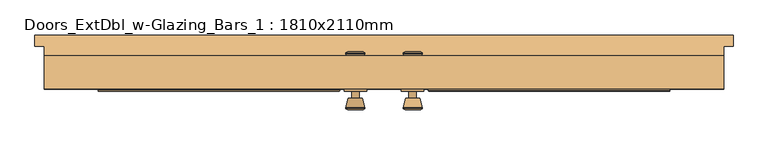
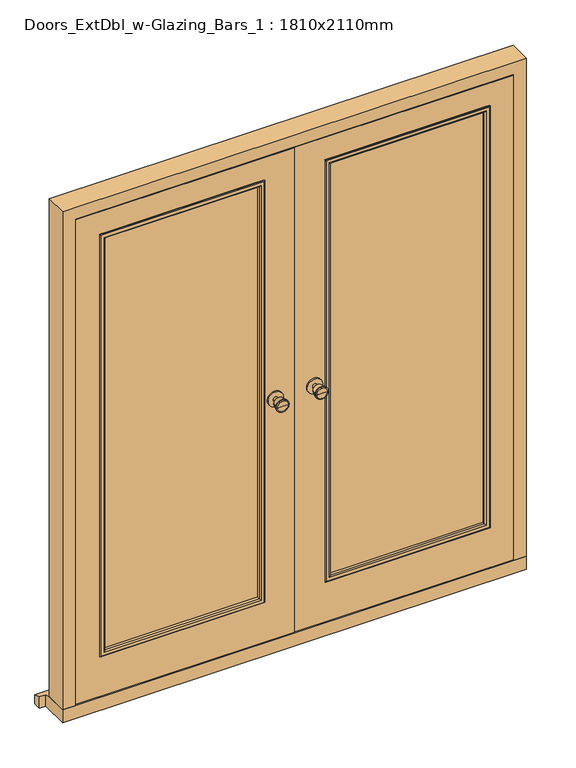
"""IFC4 building model written with IfcOpenShell, lengths in millimetres: door geometry, Doors_ExtDbl_w-Glazing_Bars_1 : 1810x2110mm."""

from ifc_helpers import new_model, si_unit, point, frame, frame_2d, origin, place, context, project, spatial, polyline, circle_curve, ellipse_curve, trimmed, segment, composite_curve, outline, extrude, faceted_brep, source, transform, mapped, element, save
from ifc_brep_helpers import plane_surface, cylinder_surface, revolved_surface, advanced_brep


def doors_extdbl_w_glazing_bars_1_1810x2110mm_a288015c(model_context):
    return source(origin(), model_context, "Body", "SolidModel", [
        advanced_brep(
        [(-76.5, 10.0, 1050.0), (-66.5, 10.0, 1050.0), (-86.5, 10.0, 1050.0), (-96.9758676, -39.0, 1050.0), (-56.0241324, -39.0, 1050.0), (-76.5, -39.0, 1050.0), (-101.5, -37.1721319, 1050.0), (-51.5, -37.1721319, 1050.0), (-101.5, -33.7084537, 1050.0), (-51.5, -33.7084537, 1050.0), (-95.136236, -9.0, 1050.0), (-57.863764, -9.0, 1050.0), (-86.5, -9.0, 1050.0), (-66.5, -9.0, 1050.0)],
        [
            (0, 1),
            (1, 2, circle_curve(frame((-76.5, 10.0, 1050.0), z_axis=(0.0, 1.0, 0.0), x_axis=(1.0, 0.0, 0.0)), 10.0)),
            (2, 0),
            (2, 1, circle_curve(frame((-76.5, 10.0, 1050.0), z_axis=(0.0, 1.0, 0.0), x_axis=(1.0, 0.0, 0.0)), 10.0)),
            (3, 4, circle_curve(frame((-76.5, -39.0, 1050.0), z_axis=(0.0, -1.0, 0.0), x_axis=(1.0, 0.0, 0.0)), 20.4758676)),
            (4, 5),
            (5, 3),
            (4, 3, circle_curve(frame((-76.5, -39.0, 1050.0), z_axis=(0.0, -1.0, 0.0), x_axis=(1.0, 0.0, 0.0)), 20.4758676)),
            (6, 7, circle_curve(frame((-76.5, -37.1721319, 1050.0), z_axis=(0.0, -1.0, 0.0), x_axis=(1.0, 0.0, 0.0)), 25.0)),
            (7, 4),
            (3, 6),
            (7, 6, circle_curve(frame((-76.5, -37.1721319, 1050.0), z_axis=(0.0, -1.0, 0.0), x_axis=(1.0, 0.0, 0.0)), 25.0)),
            (8, 9, circle_curve(frame((-76.5, -33.7084537, 1050.0), z_axis=(0.0, -1.0, 0.0), x_axis=(1.0, 0.0, 0.0)), 25.0)),
            (9, 7),
            (6, 8),
            (9, 8, circle_curve(frame((-76.5, -33.7084537, 1050.0), z_axis=(0.0, -1.0, 0.0), x_axis=(1.0, 0.0, 0.0)), 25.0)),
            (10, 11, circle_curve(frame((-76.5, -9.0, 1050.0), z_axis=(0.0, -1.0, 0.0), x_axis=(1.0, 0.0, 0.0)), 18.636236)),
            (11, 9),
            (8, 10),
            (11, 10, circle_curve(frame((-76.5, -9.0, 1050.0), z_axis=(0.0, -1.0, 0.0), x_axis=(1.0, 0.0, 0.0)), 18.636236)),
            (12, 13, circle_curve(frame((-76.5, -9.0, 1050.0), z_axis=(0.0, -1.0, 0.0), x_axis=(1.0, 0.0, 0.0)), 10.0)),
            (13, 11),
            (10, 12),
            (13, 12, circle_curve(frame((-76.5, -9.0, 1050.0), z_axis=(0.0, -1.0, 0.0), x_axis=(1.0, 0.0, 0.0)), 10.0)),
            (1, 13),
            (12, 2),
        ],
        [
            plane_surface(frame((-76.5, 10.0, 1050.0), z_axis=(0.0, 1.0, 0.0), x_axis=(1.0, 0.0, 0.0))),
            plane_surface(frame((-76.5, -39.0, 1050.0), z_axis=(0.0, -1.0, 0.0), x_axis=(1.0, 0.0, 0.0))),
            revolved_surface(polyline([(-56.0241324, -39.0, 1050.0), (-51.5, -37.1721319, 1050.0)]), (-76.5, 10.0, 1050.0), (0.0, 1.0, 0.0)),
            cylinder_surface(frame((-76.5, 10.0, 1050.0), z_axis=(0.0, 1.0, 0.0), x_axis=(1.0, 0.0, 0.0)), 25.0),
            revolved_surface(polyline([(-51.5, -33.7084537, 1050.0), (-57.863764, -9.0, 1050.0)]), (-76.5, 10.0, 1050.0), (0.0, 1.0, 0.0)),
            plane_surface(frame((-76.5, -9.0, 1050.0), z_axis=(0.0, 1.0, 0.0), x_axis=(1.0, 0.0, 0.0))),
            cylinder_surface(frame((-76.5, 10.0, 1050.0), z_axis=(0.0, 1.0, 0.0), x_axis=(1.0, 0.0, 0.0)), 10.0),
        ],
        [
            (0, [[1, 2, 3]]),
            (0, [[-3, 4, -1]]),
            (1, [[5, 6, 7]]),
            (1, [[8, -7, -6]]),
            (2, [[9, 10, -5, 11]]),
            (2, [[12, -11, -8, -10]]),
            (3, [[13, 14, -9, 15]]),
            (3, [[16, -15, -12, -14]]),
            (4, [[17, 18, -13, 19]]),
            (4, [[20, -19, -16, -18]]),
            (5, [[21, 22, -17, 23]]),
            (5, [[24, -23, -20, -22]]),
            (6, [[-2, 25, -21, 26]]),
            (6, [[-4, -26, -24, -25]]),
        ],
    ),
        extrude(outline(composite_curve([segment(trimmed(circle_curve(frame_2d((1050.0, -76.5)), 30.0), [point((1050.0, -46.5))], [point((1050.0, -106.5))], False, "CARTESIAN"), True, "CONTINUOUS"), segment(trimmed(circle_curve(frame_2d((1050.0, -76.5)), 30.0), [point((1050.0, -106.5))], [point((1050.0, -46.5))], False, "CARTESIAN"), True, "CONTINUOUS")], self_intersect=False)), frame((0.0, 10.0, 0.0), z_axis=(0.0, 1.0, 0.0), x_axis=(0.0, 0.0, 1.0)), (0.0, 0.0, 1.0), 6.0),
        advanced_brep(
        [(-76.5, 66.0, 1050.0), (-86.5, 66.0, 1050.0), (-66.5, 66.0, 1050.0), (-96.9758676, 115.0, 1050.0), (-76.5, 115.0, 1050.0), (-56.0241324, 115.0, 1050.0), (-101.5, 113.1721319, 1050.0), (-51.5, 113.1721319, 1050.0), (-101.5, 109.7084537, 1050.0), (-51.5, 109.7084537, 1050.0), (-95.136236, 85.0, 1050.0), (-57.863764, 85.0, 1050.0), (-86.5, 85.0, 1050.0), (-66.5, 85.0, 1050.0)],
        [
            (0, 1),
            (1, 2, circle_curve(frame((-76.5, 66.0, 1050.0), z_axis=(0.0, -1.0, 0.0), x_axis=(1.0, 0.0, 0.0)), 10.0)),
            (2, 0),
            (2, 1, circle_curve(frame((-76.5, 66.0, 1050.0), z_axis=(0.0, -1.0, 0.0), x_axis=(1.0, 0.0, 0.0)), 10.0)),
            (3, 4),
            (4, 5),
            (5, 3, circle_curve(frame((-76.5, 115.0, 1050.0), z_axis=(0.0, 1.0, 0.0), x_axis=(1.0, 0.0, 0.0)), 20.4758676)),
            (3, 5, circle_curve(frame((-76.5, 115.0, 1050.0), z_axis=(0.0, 1.0, 0.0), x_axis=(1.0, 0.0, 0.0)), 20.4758676)),
            (6, 3),
            (5, 7),
            (7, 6, circle_curve(frame((-76.5, 113.1721319, 1050.0), z_axis=(0.0, 1.0, 0.0), x_axis=(1.0, 0.0, 0.0)), 25.0)),
            (6, 7, circle_curve(frame((-76.5, 113.1721319, 1050.0), z_axis=(0.0, 1.0, 0.0), x_axis=(1.0, 0.0, 0.0)), 25.0)),
            (8, 6),
            (7, 9),
            (9, 8, circle_curve(frame((-76.5, 109.7084537, 1050.0), z_axis=(0.0, 1.0, 0.0), x_axis=(1.0, 0.0, 0.0)), 25.0)),
            (8, 9, circle_curve(frame((-76.5, 109.7084537, 1050.0), z_axis=(0.0, 1.0, 0.0), x_axis=(1.0, 0.0, 0.0)), 25.0)),
            (10, 8),
            (9, 11),
            (11, 10, circle_curve(frame((-76.5, 85.0, 1050.0), z_axis=(0.0, 1.0, 0.0), x_axis=(1.0, 0.0, 0.0)), 18.636236)),
            (10, 11, circle_curve(frame((-76.5, 85.0, 1050.0), z_axis=(0.0, 1.0, 0.0), x_axis=(1.0, 0.0, 0.0)), 18.636236)),
            (12, 10),
            (11, 13),
            (13, 12, circle_curve(frame((-76.5, 85.0, 1050.0), z_axis=(0.0, 1.0, 0.0), x_axis=(1.0, 0.0, 0.0)), 10.0)),
            (12, 13, circle_curve(frame((-76.5, 85.0, 1050.0), z_axis=(0.0, 1.0, 0.0), x_axis=(1.0, 0.0, 0.0)), 10.0)),
            (1, 12),
            (13, 2),
        ],
        [
            plane_surface(frame((-76.5, 66.0, 1050.0), z_axis=(0.0, -1.0, 0.0), x_axis=(1.0, 0.0, 0.0))),
            plane_surface(frame((-76.5, 115.0, 1050.0), z_axis=(0.0, 1.0, 0.0), x_axis=(1.0, 0.0, 0.0))),
            revolved_surface(polyline([(-56.0241324, 115.0, 1050.0), (-51.5, 113.1721319, 1050.0)]), (-76.5, 66.0, 1050.0), (0.0, -1.0, 0.0)),
            cylinder_surface(frame((-76.5, 66.0, 1050.0), z_axis=(0.0, -1.0, 0.0), x_axis=(1.0, 0.0, 0.0)), 25.0),
            revolved_surface(polyline([(-51.5, 109.7084537, 1050.0), (-57.863764, 85.0, 1050.0)]), (-76.5, 66.0, 1050.0), (0.0, -1.0, 0.0)),
            plane_surface(frame((-76.5, 85.0, 1050.0), z_axis=(0.0, -1.0, 0.0), x_axis=(1.0, 0.0, 0.0))),
            cylinder_surface(frame((-76.5, 66.0, 1050.0), z_axis=(0.0, -1.0, 0.0), x_axis=(1.0, 0.0, 0.0)), 10.0),
        ],
        [
            (0, [[1, 2, 3]]),
            (0, [[-3, 4, -1]]),
            (1, [[5, 6, 7]]),
            (1, [[-6, -5, 8]]),
            (2, [[9, -7, 10, 11]]),
            (2, [[-10, -8, -9, 12]]),
            (3, [[13, -11, 14, 15]]),
            (3, [[-14, -12, -13, 16]]),
            (4, [[17, -15, 18, 19]]),
            (4, [[-18, -16, -17, 20]]),
            (5, [[21, -19, 22, 23]]),
            (5, [[-22, -20, -21, 24]]),
            (6, [[25, -23, 26, -2]]),
            (6, [[-26, -24, -25, -4]]),
        ],
    ),
        extrude(outline(composite_curve([segment(trimmed(circle_curve(frame_2d((1050.0, -76.5)), 30.0), [point((1050.0, -46.5))], [point((1050.0, -106.5))], False, "CARTESIAN"), True, "CONTINUOUS"), segment(trimmed(circle_curve(frame_2d((1050.0, -76.5)), 30.0), [point((1050.0, -106.5))], [point((1050.0, -46.5))], False, "CARTESIAN"), True, "CONTINUOUS")], self_intersect=False)), frame((0.0, 60.0, 0.0), z_axis=(0.0, 1.0, 0.0), x_axis=(0.0, 0.0, 1.0)), (0.0, 0.0, 1.0), 6.0),
        advanced_brep(
        [(76.5, 10.0, 1050.0), (86.5, 10.0, 1050.0), (66.5, 10.0, 1050.0), (96.9758676, -39.0, 1050.0), (76.5, -39.0, 1050.0), (56.0241324, -39.0, 1050.0), (101.5, -37.1721319, 1050.0), (51.5, -37.1721319, 1050.0), (101.5, -33.7084537, 1050.0), (51.5, -33.7084537, 1050.0), (95.136236, -9.0, 1050.0), (57.863764, -9.0, 1050.0), (86.5, -9.0, 1050.0), (66.5, -9.0, 1050.0)],
        [
            (0, 1),
            (1, 2, circle_curve(frame((76.5, 10.0, 1050.0), z_axis=(0.0, 1.0, 0.0), x_axis=(-1.0, 0.0, 0.0)), 10.0)),
            (2, 0),
            (2, 1, circle_curve(frame((76.5, 10.0, 1050.0), z_axis=(0.0, 1.0, 0.0), x_axis=(-1.0, 0.0, 0.0)), 10.0)),
            (3, 4),
            (4, 5),
            (5, 3, circle_curve(frame((76.5, -39.0, 1050.0), z_axis=(0.0, -1.0, 0.0), x_axis=(-1.0, 0.0, 0.0)), 20.4758676)),
            (3, 5, circle_curve(frame((76.5, -39.0, 1050.0), z_axis=(0.0, -1.0, 0.0), x_axis=(-1.0, 0.0, 0.0)), 20.4758676)),
            (6, 3),
            (5, 7),
            (7, 6, circle_curve(frame((76.5, -37.1721319, 1050.0), z_axis=(0.0, -1.0, 0.0), x_axis=(-1.0, 0.0, 0.0)), 25.0)),
            (6, 7, circle_curve(frame((76.5, -37.1721319, 1050.0), z_axis=(0.0, -1.0, 0.0), x_axis=(-1.0, 0.0, 0.0)), 25.0)),
            (8, 6),
            (7, 9),
            (9, 8, circle_curve(frame((76.5, -33.7084537, 1050.0), z_axis=(0.0, -1.0, 0.0), x_axis=(-1.0, 0.0, 0.0)), 25.0)),
            (8, 9, circle_curve(frame((76.5, -33.7084537, 1050.0), z_axis=(0.0, -1.0, 0.0), x_axis=(-1.0, 0.0, 0.0)), 25.0)),
            (10, 8),
            (9, 11),
            (11, 10, circle_curve(frame((76.5, -9.0, 1050.0), z_axis=(0.0, -1.0, 0.0), x_axis=(-1.0, 0.0, 0.0)), 18.636236)),
            (10, 11, circle_curve(frame((76.5, -9.0, 1050.0), z_axis=(0.0, -1.0, 0.0), x_axis=(-1.0, 0.0, 0.0)), 18.636236)),
            (12, 10),
            (11, 13),
            (13, 12, circle_curve(frame((76.5, -9.0, 1050.0), z_axis=(0.0, -1.0, 0.0), x_axis=(-1.0, 0.0, 0.0)), 10.0)),
            (12, 13, circle_curve(frame((76.5, -9.0, 1050.0), z_axis=(0.0, -1.0, 0.0), x_axis=(-1.0, 0.0, 0.0)), 10.0)),
            (1, 12),
            (13, 2),
        ],
        [
            plane_surface(frame((76.5, 10.0, 1050.0), z_axis=(0.0, 1.0, 0.0), x_axis=(-1.0, 0.0, 0.0))),
            plane_surface(frame((76.5, -39.0, 1050.0), z_axis=(0.0, -1.0, 0.0), x_axis=(-1.0, 0.0, 0.0))),
            revolved_surface(polyline([(56.0241324, -39.0, 1050.0), (51.5, -37.1721319, 1050.0)]), (76.5, 10.0, 1050.0), (0.0, 1.0, 0.0)),
            cylinder_surface(frame((76.5, 10.0, 1050.0), z_axis=(0.0, 1.0, 0.0), x_axis=(-1.0, 0.0, 0.0)), 25.0),
            revolved_surface(polyline([(51.5, -33.7084537, 1050.0), (57.863764, -9.0, 1050.0)]), (76.5, 10.0, 1050.0), (0.0, 1.0, 0.0)),
            plane_surface(frame((76.5, -9.0, 1050.0), z_axis=(0.0, 1.0, 0.0), x_axis=(-1.0, 0.0, 0.0))),
            cylinder_surface(frame((76.5, 10.0, 1050.0), z_axis=(0.0, 1.0, 0.0), x_axis=(-1.0, 0.0, 0.0)), 10.0),
        ],
        [
            (0, [[1, 2, 3]]),
            (0, [[-3, 4, -1]]),
            (1, [[5, 6, 7]]),
            (1, [[-6, -5, 8]]),
            (2, [[9, -7, 10, 11]]),
            (2, [[-10, -8, -9, 12]]),
            (3, [[13, -11, 14, 15]]),
            (3, [[-14, -12, -13, 16]]),
            (4, [[17, -15, 18, 19]]),
            (4, [[-18, -16, -17, 20]]),
            (5, [[21, -19, 22, 23]]),
            (5, [[-22, -20, -21, 24]]),
            (6, [[25, -23, 26, -2]]),
            (6, [[-26, -24, -25, -4]]),
        ],
    ),
        extrude(outline(composite_curve([segment(trimmed(circle_curve(frame_2d((1050.0, 76.5)), 30.0), [point((1050.0, 46.5))], [point((1050.0, 106.5))], False, "CARTESIAN"), True, "CONTINUOUS"), segment(trimmed(circle_curve(frame_2d((1050.0, 76.5)), 30.0), [point((1050.0, 106.5))], [point((1050.0, 46.5))], False, "CARTESIAN"), True, "CONTINUOUS")], self_intersect=False)), frame((0.0, 10.0, 0.0), z_axis=(0.0, 1.0, 0.0), x_axis=(0.0, 0.0, 1.0)), (0.0, 0.0, 1.0), 6.0),
        advanced_brep(
        [(76.5, 66.0, 1050.0), (66.5, 66.0, 1050.0), (86.5, 66.0, 1050.0), (96.9758676, 115.0, 1050.0), (56.0241324, 115.0, 1050.0), (76.5, 115.0, 1050.0), (101.5, 113.1721319, 1050.0), (51.5, 113.1721319, 1050.0), (101.5, 109.7084537, 1050.0), (51.5, 109.7084537, 1050.0), (95.136236, 85.0, 1050.0), (57.863764, 85.0, 1050.0), (86.5, 85.0, 1050.0), (66.5, 85.0, 1050.0)],
        [
            (0, 1),
            (1, 2, circle_curve(frame((76.5, 66.0, 1050.0), z_axis=(0.0, -1.0, 0.0), x_axis=(-1.0, 0.0, 0.0)), 10.0)),
            (2, 0),
            (2, 1, circle_curve(frame((76.5, 66.0, 1050.0), z_axis=(0.0, -1.0, 0.0), x_axis=(-1.0, 0.0, 0.0)), 10.0)),
            (3, 4, circle_curve(frame((76.5, 115.0, 1050.0), z_axis=(0.0, 1.0, 0.0), x_axis=(-1.0, 0.0, 0.0)), 20.4758676)),
            (4, 5),
            (5, 3),
            (4, 3, circle_curve(frame((76.5, 115.0, 1050.0), z_axis=(0.0, 1.0, 0.0), x_axis=(-1.0, 0.0, 0.0)), 20.4758676)),
            (6, 7, circle_curve(frame((76.5, 113.1721319, 1050.0), z_axis=(0.0, 1.0, 0.0), x_axis=(-1.0, 0.0, 0.0)), 25.0)),
            (7, 4),
            (3, 6),
            (7, 6, circle_curve(frame((76.5, 113.1721319, 1050.0), z_axis=(0.0, 1.0, 0.0), x_axis=(-1.0, 0.0, 0.0)), 25.0)),
            (8, 9, circle_curve(frame((76.5, 109.7084537, 1050.0), z_axis=(0.0, 1.0, 0.0), x_axis=(-1.0, 0.0, 0.0)), 25.0)),
            (9, 7),
            (6, 8),
            (9, 8, circle_curve(frame((76.5, 109.7084537, 1050.0), z_axis=(0.0, 1.0, 0.0), x_axis=(-1.0, 0.0, 0.0)), 25.0)),
            (10, 11, circle_curve(frame((76.5, 85.0, 1050.0), z_axis=(0.0, 1.0, 0.0), x_axis=(-1.0, 0.0, 0.0)), 18.636236)),
            (11, 9),
            (8, 10),
            (11, 10, circle_curve(frame((76.5, 85.0, 1050.0), z_axis=(0.0, 1.0, 0.0), x_axis=(-1.0, 0.0, 0.0)), 18.636236)),
            (12, 13, circle_curve(frame((76.5, 85.0, 1050.0), z_axis=(0.0, 1.0, 0.0), x_axis=(-1.0, 0.0, 0.0)), 10.0)),
            (13, 11),
            (10, 12),
            (13, 12, circle_curve(frame((76.5, 85.0, 1050.0), z_axis=(0.0, 1.0, 0.0), x_axis=(-1.0, 0.0, 0.0)), 10.0)),
            (1, 13),
            (12, 2),
        ],
        [
            plane_surface(frame((76.5, 66.0, 1050.0), z_axis=(0.0, -1.0, 0.0), x_axis=(-1.0, 0.0, 0.0))),
            plane_surface(frame((76.5, 115.0, 1050.0), z_axis=(0.0, 1.0, 0.0), x_axis=(-1.0, 0.0, 0.0))),
            revolved_surface(polyline([(56.0241324, 115.0, 1050.0), (51.5, 113.1721319, 1050.0)]), (76.5, 66.0, 1050.0), (0.0, -1.0, 0.0)),
            cylinder_surface(frame((76.5, 66.0, 1050.0), z_axis=(0.0, -1.0, 0.0), x_axis=(-1.0, 0.0, 0.0)), 25.0),
            revolved_surface(polyline([(51.5, 109.7084537, 1050.0), (57.863764, 85.0, 1050.0)]), (76.5, 66.0, 1050.0), (0.0, -1.0, 0.0)),
            plane_surface(frame((76.5, 85.0, 1050.0), z_axis=(0.0, -1.0, 0.0), x_axis=(-1.0, 0.0, 0.0))),
            cylinder_surface(frame((76.5, 66.0, 1050.0), z_axis=(0.0, -1.0, 0.0), x_axis=(-1.0, 0.0, 0.0)), 10.0),
        ],
        [
            (0, [[1, 2, 3]]),
            (0, [[-3, 4, -1]]),
            (1, [[5, 6, 7]]),
            (1, [[8, -7, -6]]),
            (2, [[9, 10, -5, 11]]),
            (2, [[12, -11, -8, -10]]),
            (3, [[13, 14, -9, 15]]),
            (3, [[16, -15, -12, -14]]),
            (4, [[17, 18, -13, 19]]),
            (4, [[20, -19, -16, -18]]),
            (5, [[21, 22, -17, 23]]),
            (5, [[24, -23, -20, -22]]),
            (6, [[-2, 25, -21, 26]]),
            (6, [[-4, -26, -24, -25]]),
        ],
    ),
        extrude(outline(composite_curve([segment(trimmed(circle_curve(frame_2d((1050.0, 76.5)), 30.0), [point((1050.0, 46.5))], [point((1050.0, 106.5))], False, "CARTESIAN"), True, "CONTINUOUS"), segment(trimmed(circle_curve(frame_2d((1050.0, 76.5)), 30.0), [point((1050.0, 106.5))], [point((1050.0, 46.5))], False, "CARTESIAN"), True, "CONTINUOUS")], self_intersect=False)), frame((0.0, 60.0, 0.0), z_axis=(0.0, 1.0, 0.0), x_axis=(0.0, 0.0, 1.0)), (0.0, 0.0, 1.0), 6.0),
        faceted_brep([(834.5, 105.0, 54.5), (905.0, 105.0, 54.5), (905.0, 16.0, 54.5), (856.5, 16.0, 54.5), (856.5, 63.0, 54.5), (834.5, 63.0, 54.5), (834.5, 105.0, 2039.5), (-834.5, 105.0, 2039.5), (-834.5, 105.0, 54.5), (-905.0, 105.0, 54.5), (-905.0, 105.0, 2110.0), (905.0, 105.0, 2110.0), (905.0, 16.0, 2110.0), (-905.0, 16.0, 2110.0), (-905.0, 16.0, 54.5), (-856.5, 16.0, 54.5), (-856.5, 16.0, 2061.5), (856.5, 16.0, 2061.5), (856.5, 63.0, 2061.5), (-856.5, 63.0, 2061.5), (-856.5, 63.0, 54.5), (-834.5, 63.0, 54.5), (-834.5, 63.0, 2039.5), (834.5, 63.0, 2039.5)], [[[0, 1, 2, 3, 4, 5]], [[1, 0, 6, 7, 8, 9, 10, 11]], [[2, 1, 11, 12]], [[3, 2, 12, 13, 14, 15, 16, 17]], [[4, 3, 17, 18]], [[5, 4, 18, 19, 20, 21, 22, 23]], [[0, 5, 23, 6]], [[7, 22, 21, 8]], [[8, 21, 20, 15, 14, 9]], [[13, 10, 9, 14]], [[19, 16, 15, 20]], [[12, 11, 10, 13]], [[18, 17, 16, 19]], [[6, 23, 22, 7]]]),
        extrude(outline(polyline([(126.5, 50.0), (753.5, 50.0), (753.5, 26.0), (126.5, 26.0), (126.5, 50.0)])), frame((0.0, 0.0, 233.5), z_axis=(0.0, 0.0, 1.0), x_axis=(1.0, 0.0, 0.0)), (0.0, 0.0, 1.0), 1725.0),
        extrude(outline(polyline([(-753.5, 50.0), (-126.5, 50.0), (-126.5, 26.0), (-753.5, 26.0), (-753.5, 50.0)])), frame((0.0, 0.0, 233.5), z_axis=(0.0, 0.0, 1.0), x_axis=(1.0, 0.0, 0.0)), (0.0, 0.0, 1.0), 1725.0),
        faceted_brep([(930.0, 160.0, 0.0), (930.0, 160.0, 38.5947221), (930.0, 130.0, 47.2703282), (930.0, 130.0, 0.0), (-930.0, 160.0, 38.5947221), (-930.0, 160.0, 0.0), (-930.0, 130.0, 0.0), (-930.0, 130.0, 47.2703282), (905.0, 130.0, 0.0), (905.0, 16.0, 0.0), (-905.0, 16.0, 0.0), (-905.0, 130.0, 0.0), (-905.0, 130.0, 47.2703282), (-905.0, 105.0, 54.5), (905.0, 105.0, 54.5), (905.0, 130.0, 47.2703282), (-905.0, 16.0, 54.5), (905.0, 16.0, 54.5)], [[[0, 1, 2, 3]], [[4, 5, 6, 7]], [[5, 0, 3, 8, 9, 10, 11, 6]], [[1, 0, 5, 4]], [[1, 4, 7, 12, 13, 14, 15, 2]], [[13, 16, 17, 14]], [[16, 10, 9, 17]], [[12, 11, 10, 16, 13]], [[11, 12, 7, 6]], [[8, 15, 14, 17, 9]], [[15, 8, 3, 2]]]),
        extrude(outline(polyline([(58.5, 853.5), (2058.5, 853.5), (2058.5, 1.5), (58.5, 1.5), (58.5, 853.5)]), holes=[polyline([(1958.5, 753.5), (233.5, 753.5), (233.5, 126.5), (1958.5, 126.5), (1958.5, 753.5)])]), frame((0.0, 16.0, 0.0), z_axis=(0.0, 1.0, 0.0), x_axis=(0.0, 0.0, 1.0)), (0.0, 0.0, 1.0), 44.0),
        extrude(outline(polyline([(58.5, -853.5), (58.5, -1.5), (2058.5, -1.5), (2058.5, -853.5), (58.5, -853.5)]), holes=[polyline([(1958.5, -126.5), (233.5, -126.5), (233.5, -753.5), (1958.5, -753.5), (1958.5, -126.5)])]), frame((0.0, 16.0, 0.0), z_axis=(0.0, 1.0, 0.0), x_axis=(0.0, 0.0, 1.0)), (0.0, 0.0, 1.0), 44.0),
        advanced_brep(
        [(761.5, 12.0, 225.5), (761.5, 16.0, 225.5), (761.5, 16.0, 1966.5), (761.5, 12.0, 1966.5), (759.5, 10.0, 227.5), (759.5, 10.0, 1964.5), (741.5, 15.0, 245.5), (746.5, 10.0, 240.5), (746.5, 10.0, 1951.5), (741.5, 15.0, 1946.5), (741.5, 26.0, 245.5), (741.5, 26.0, 1946.5), (753.5, 16.0, 233.5), (753.5, 26.0, 233.5), (753.5, 26.0, 1958.5), (753.5, 16.0, 1958.5), (118.5, 16.0, 1966.5), (118.5, 12.0, 1966.5), (120.5, 10.0, 1964.5), (133.5, 10.0, 1951.5), (138.5, 15.0, 1946.5), (138.5, 26.0, 1946.5), (126.5, 26.0, 1958.5), (126.5, 16.0, 1958.5), (118.5, 16.0, 225.5), (118.5, 12.0, 225.5), (120.5, 10.0, 227.5), (133.5, 10.0, 240.5), (138.5, 15.0, 245.5), (138.5, 26.0, 245.5), (126.5, 26.0, 233.5), (126.5, 16.0, 233.5)],
        [
            (0, 1),
            (1, 2),
            (2, 3),
            (3, 0),
            (4, 0, ellipse_curve(frame((759.5, 12.0, 227.5), z_axis=(0.7071067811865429, 0.0, 0.707106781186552), x_axis=(0.707106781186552, 0.0, -0.707106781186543)), 2.8284271, 2.0)),
            (3, 5, ellipse_curve(frame((759.5, 12.0, 1964.5), z_axis=(0.7071067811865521, 0.0, -0.7071067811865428), x_axis=(-0.7071067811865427, 0.0, -0.7071067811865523)), 2.8284271, 2.0)),
            (5, 4),
            (6, 7, ellipse_curve(frame((746.5, 15.0, 240.5), z_axis=(0.7071067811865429, 0.0, 0.707106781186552), x_axis=(0.707106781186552, 0.0, -0.707106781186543)), 7.0710678, 5.0)),
            (7, 8),
            (8, 9, ellipse_curve(frame((746.5, 15.0, 1951.5), z_axis=(0.7071067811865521, 0.0, -0.7071067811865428), x_axis=(-0.7071067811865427, 0.0, -0.7071067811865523)), 7.0710678, 5.0)),
            (9, 6),
            (10, 6),
            (9, 11),
            (11, 10),
            (12, 13),
            (13, 14),
            (14, 15),
            (15, 12),
            (2, 16),
            (16, 17),
            (17, 3),
            (17, 18, ellipse_curve(frame((120.5, 12.0, 1964.5), z_axis=(0.7071067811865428, 0.0, 0.7071067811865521), x_axis=(0.7071067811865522, 0.0, -0.7071067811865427)), 2.8284271, 2.0)),
            (18, 5),
            (8, 19),
            (19, 20, ellipse_curve(frame((133.5, 15.0, 1951.5), z_axis=(0.7071067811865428, 0.0, 0.7071067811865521), x_axis=(0.7071067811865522, 0.0, -0.7071067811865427)), 7.0710678, 5.0)),
            (20, 9),
            (20, 21),
            (21, 11),
            (14, 22),
            (22, 23),
            (23, 15),
            (16, 24),
            (24, 25),
            (25, 17),
            (25, 26, ellipse_curve(frame((120.5, 12.0, 227.5), z_axis=(-0.7071067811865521, 0.0, 0.7071067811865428), x_axis=(0.7071067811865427, 0.0, 0.7071067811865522)), 2.8284271, 2.0)),
            (26, 18),
            (19, 27),
            (27, 28, ellipse_curve(frame((133.5, 15.0, 240.5), z_axis=(-0.7071067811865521, 0.0, 0.7071067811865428), x_axis=(0.7071067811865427, 0.0, 0.7071067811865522)), 7.0710678, 5.0)),
            (28, 20),
            (28, 29),
            (29, 21),
            (22, 30),
            (30, 31),
            (31, 23),
            (24, 1),
            (0, 25),
            (4, 26),
            (7, 27),
            (6, 28),
            (10, 29),
            (13, 30),
            (12, 31),
        ],
        [
            plane_surface(frame((761.5, 16.0, 225.5), z_axis=(1.0, 0.0, 0.0), x_axis=(0.0, 0.0, 1.0))),
            cylinder_surface(frame((759.5, 12.0, 233.5), z_axis=(0.0, 0.0, -1.0), x_axis=(1.0, 0.0, 0.0)), 2.0),
            cylinder_surface(frame((746.5, 15.0, 233.5), z_axis=(0.0, 0.0, -1.0), x_axis=(1.0, 0.0, 0.0)), 5.0),
            plane_surface(frame((741.5, 15.0, 245.5), z_axis=(-1.0, 0.0, 0.0), x_axis=(0.0, 0.0, 1.0))),
            plane_surface(frame((753.5, 26.0, 233.5), z_axis=(1.0, 0.0, 0.0), x_axis=(0.0, 0.0, 1.0))),
            plane_surface(frame((761.5, 16.0, 1966.5), z_axis=(0.0, 0.0, 1.0), x_axis=(-1.0, 0.0, 0.0))),
            cylinder_surface(frame((753.5, 12.0, 1964.5), z_axis=(1.0, 0.0, 0.0), x_axis=(0.0, 0.0, 1.0)), 2.0),
            cylinder_surface(frame((753.5, 15.0, 1951.5), z_axis=(1.0, 0.0, 0.0), x_axis=(0.0, 0.0, 1.0)), 5.0),
            plane_surface(frame((741.5, 15.0, 1946.5), z_axis=(0.0, 0.0, -1.0), x_axis=(-1.0, 0.0, 0.0))),
            plane_surface(frame((753.5, 26.0, 1958.5), z_axis=(0.0, 0.0, 1.0), x_axis=(-1.0, 0.0, 0.0))),
            plane_surface(frame((118.5, 16.0, 1966.5), z_axis=(-1.0, 0.0, 0.0), x_axis=(0.0, 0.0, -1.0))),
            cylinder_surface(frame((120.5, 12.0, 1958.5), z_axis=(0.0, 0.0, 1.0), x_axis=(-1.0, 0.0, 0.0)), 2.0),
            cylinder_surface(frame((133.5, 15.0, 1958.5), z_axis=(0.0, 0.0, 1.0), x_axis=(-1.0, 0.0, 0.0)), 5.0),
            plane_surface(frame((138.5, 15.0, 1946.5), z_axis=(1.0, 0.0, 0.0), x_axis=(0.0, 0.0, -1.0))),
            plane_surface(frame((126.5, 26.0, 1958.5), z_axis=(-1.0, 0.0, 0.0), x_axis=(0.0, 0.0, -1.0))),
            plane_surface(frame((118.5, 16.0, 225.5), z_axis=(0.0, 0.0, -1.0), x_axis=(1.0, 0.0, 0.0))),
            cylinder_surface(frame((126.5, 12.0, 227.5), z_axis=(-1.0, 0.0, 0.0), x_axis=(0.0, 0.0, -1.0)), 2.0),
            plane_surface(frame((120.5, 10.0, 227.5), z_axis=(0.0, -1.0, 0.0), x_axis=(1.0, 0.0, 0.0))),
            cylinder_surface(frame((126.5, 15.0, 240.5), z_axis=(-1.0, 0.0, 0.0), x_axis=(0.0, 0.0, -1.0)), 5.0),
            plane_surface(frame((138.5, 15.0, 245.5), z_axis=(0.0, 0.0, 1.0), x_axis=(1.0, 0.0, 0.0))),
            plane_surface(frame((138.5, 26.0, 245.5), z_axis=(0.0, 1.0, 0.0), x_axis=(1.0, 0.0, 0.0))),
            plane_surface(frame((126.5, 26.0, 233.5), z_axis=(0.0, 0.0, -1.0), x_axis=(1.0, 0.0, 0.0))),
            plane_surface(frame((126.5, 16.0, 233.5), z_axis=(0.0, 1.0, 0.0), x_axis=(1.0, 0.0, 0.0))),
        ],
        [
            (0, [[1, 2, 3, 4]]),
            (1, [[5, -4, 6, 7]]),
            (2, [[8, 9, 10, 11]]),
            (3, [[12, -11, 13, 14]]),
            (4, [[15, 16, 17, 18]]),
            (5, [[-3, 19, 20, 21]]),
            (6, [[-6, -21, 22, 23]]),
            (7, [[-10, 24, 25, 26]]),
            (8, [[-13, -26, 27, 28]]),
            (9, [[-17, 29, 30, 31]]),
            (10, [[-20, 32, 33, 34]]),
            (11, [[-22, -34, 35, 36]]),
            (12, [[-25, 37, 38, 39]]),
            (13, [[-27, -39, 40, 41]]),
            (14, [[-30, 42, 43, 44]]),
            (15, [[-33, 45, -1, 46]]),
            (16, [[-35, -46, -5, 47]]),
            (17, [[-23, -36, -47, -7], [48, -37, -24, -9]]),
            (18, [[-38, -48, -8, 49]]),
            (19, [[-40, -49, -12, 50]]),
            (20, [[51, -42, -29, -16], [-28, -41, -50, -14]]),
            (21, [[-43, -51, -15, 52]]),
            (22, [[-45, -32, -19, -2], [-31, -44, -52, -18]]),
        ],
    ),
        advanced_brep(
        [(-753.5, 26.0, 233.5), (-753.5, 16.0, 233.5), (-753.5, 16.0, 1958.5), (-753.5, 26.0, 1958.5), (-741.5, 15.0, 245.5), (-741.5, 26.0, 245.5), (-741.5, 26.0, 1946.5), (-741.5, 15.0, 1946.5), (-746.5, 10.0, 240.5), (-746.5, 10.0, 1951.5), (-761.5, 12.0, 225.5), (-759.5, 10.0, 227.5), (-759.5, 10.0, 1964.5), (-761.5, 12.0, 1966.5), (-761.5, 16.0, 225.5), (-761.5, 16.0, 1966.5), (-126.5, 16.0, 1958.5), (-126.5, 26.0, 1958.5), (-138.5, 26.0, 1946.5), (-138.5, 15.0, 1946.5), (-133.5, 10.0, 1951.5), (-120.5, 10.0, 1964.5), (-118.5, 12.0, 1966.5), (-118.5, 16.0, 1966.5), (-126.5, 16.0, 233.5), (-126.5, 26.0, 233.5), (-138.5, 26.0, 245.5), (-138.5, 15.0, 245.5), (-133.5, 10.0, 240.5), (-120.5, 10.0, 227.5), (-118.5, 12.0, 225.5), (-118.5, 16.0, 225.5)],
        [
            (0, 1),
            (1, 2),
            (2, 3),
            (3, 0),
            (4, 5),
            (5, 6),
            (6, 7),
            (7, 4),
            (8, 4, ellipse_curve(frame((-746.5, 15.0, 240.5), z_axis=(-0.707106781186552, 0.0, 0.707106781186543), x_axis=(-0.707106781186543, 0.0, -0.707106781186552)), 7.0710678, 5.0)),
            (7, 9, ellipse_curve(frame((-746.5, 15.0, 1951.5), z_axis=(-0.7071067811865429, 0.0, -0.707106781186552), x_axis=(0.7071067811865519, 0.0, -0.707106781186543)), 7.0710678, 5.0)),
            (9, 8),
            (10, 11, ellipse_curve(frame((-759.5, 12.0, 227.5), z_axis=(-0.707106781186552, 0.0, 0.707106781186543), x_axis=(-0.707106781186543, 0.0, -0.707106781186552)), 2.8284271, 2.0)),
            (11, 12),
            (12, 13, ellipse_curve(frame((-759.5, 12.0, 1964.5), z_axis=(-0.7071067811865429, 0.0, -0.707106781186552), x_axis=(0.7071067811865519, 0.0, -0.707106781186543)), 2.8284271, 2.0)),
            (13, 10),
            (14, 10),
            (13, 15),
            (15, 14),
            (2, 16),
            (16, 17),
            (17, 3),
            (6, 18),
            (18, 19),
            (19, 7),
            (19, 20, ellipse_curve(frame((-133.5, 15.0, 1951.5), z_axis=(-0.707106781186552, 0.0, 0.7071067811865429), x_axis=(-0.707106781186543, 0.0, -0.7071067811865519)), 7.0710678, 5.0)),
            (20, 9),
            (12, 21),
            (21, 22, ellipse_curve(frame((-120.5, 12.0, 1964.5), z_axis=(-0.707106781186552, 0.0, 0.7071067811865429), x_axis=(-0.707106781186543, 0.0, -0.7071067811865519)), 2.8284271, 2.0)),
            (22, 13),
            (22, 23),
            (23, 15),
            (16, 24),
            (24, 25),
            (25, 17),
            (18, 26),
            (26, 27),
            (27, 19),
            (27, 28, ellipse_curve(frame((-133.5, 15.0, 240.5), z_axis=(0.707106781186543, 0.0, 0.707106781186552), x_axis=(-0.7071067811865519, 0.0, 0.707106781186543)), 7.0710678, 5.0)),
            (28, 20),
            (21, 29),
            (29, 30, ellipse_curve(frame((-120.5, 12.0, 227.5), z_axis=(0.707106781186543, 0.0, 0.707106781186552), x_axis=(-0.7071067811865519, 0.0, 0.707106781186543)), 2.8284271, 2.0)),
            (30, 22),
            (30, 31),
            (31, 23),
            (31, 14),
            (1, 24),
            (0, 25),
            (5, 26),
            (4, 27),
            (8, 28),
            (11, 29),
            (10, 30),
        ],
        [
            plane_surface(frame((-753.5, 16.0, 233.5), z_axis=(-1.0, 0.0, 0.0), x_axis=(0.0, 0.0, 1.0))),
            plane_surface(frame((-741.5, 26.0, 245.5), z_axis=(1.0, 0.0, 0.0), x_axis=(0.0, 0.0, 1.0))),
            cylinder_surface(frame((-746.5, 15.0, 233.5), z_axis=(0.0, 0.0, -1.0), x_axis=(-1.0, 0.0, 0.0)), 5.0),
            cylinder_surface(frame((-759.5, 12.0, 233.5), z_axis=(0.0, 0.0, -1.0), x_axis=(-1.0, 0.0, 0.0)), 2.0),
            plane_surface(frame((-761.5, 12.0, 225.5), z_axis=(-1.0, 0.0, 0.0), x_axis=(0.0, 0.0, 1.0))),
            plane_surface(frame((-753.5, 16.0, 1958.5), z_axis=(0.0, 0.0, 1.0), x_axis=(1.0, 0.0, 0.0))),
            plane_surface(frame((-741.5, 26.0, 1946.5), z_axis=(0.0, 0.0, -1.0), x_axis=(1.0, 0.0, 0.0))),
            cylinder_surface(frame((-753.5, 15.0, 1951.5), z_axis=(-1.0, 0.0, 0.0), x_axis=(0.0, 0.0, 1.0)), 5.0),
            cylinder_surface(frame((-753.5, 12.0, 1964.5), z_axis=(-1.0, 0.0, 0.0), x_axis=(0.0, 0.0, 1.0)), 2.0),
            plane_surface(frame((-761.5, 12.0, 1966.5), z_axis=(0.0, 0.0, 1.0), x_axis=(1.0, 0.0, 0.0))),
            plane_surface(frame((-126.5, 16.0, 1958.5), z_axis=(1.0, 0.0, 0.0), x_axis=(0.0, 0.0, -1.0))),
            plane_surface(frame((-138.5, 26.0, 1946.5), z_axis=(-1.0, 0.0, 0.0), x_axis=(0.0, 0.0, -1.0))),
            cylinder_surface(frame((-133.5, 15.0, 1958.5), z_axis=(0.0, 0.0, 1.0), x_axis=(1.0, 0.0, 0.0)), 5.0),
            cylinder_surface(frame((-120.5, 12.0, 1958.5), z_axis=(0.0, 0.0, 1.0), x_axis=(1.0, 0.0, 0.0)), 2.0),
            plane_surface(frame((-118.5, 12.0, 1966.5), z_axis=(1.0, 0.0, 0.0), x_axis=(0.0, 0.0, -1.0))),
            plane_surface(frame((-118.5, 16.0, 225.5), z_axis=(0.0, 1.0, 0.0), x_axis=(-1.0, 0.0, 0.0))),
            plane_surface(frame((-126.5, 16.0, 233.5), z_axis=(0.0, 0.0, -1.0), x_axis=(-1.0, 0.0, 0.0))),
            plane_surface(frame((-126.5, 26.0, 233.5), z_axis=(0.0, 1.0, 0.0), x_axis=(-1.0, 0.0, 0.0))),
            plane_surface(frame((-138.5, 26.0, 245.5), z_axis=(0.0, 0.0, 1.0), x_axis=(-1.0, 0.0, 0.0))),
            cylinder_surface(frame((-126.5, 15.0, 240.5), z_axis=(1.0, 0.0, 0.0), x_axis=(0.0, 0.0, -1.0)), 5.0),
            plane_surface(frame((-133.5, 10.0, 240.5), z_axis=(0.0, -1.0, 0.0), x_axis=(-1.0, 0.0, 0.0))),
            cylinder_surface(frame((-126.5, 12.0, 227.5), z_axis=(1.0, 0.0, 0.0), x_axis=(0.0, 0.0, -1.0)), 2.0),
            plane_surface(frame((-118.5, 12.0, 225.5), z_axis=(0.0, 0.0, -1.0), x_axis=(-1.0, 0.0, 0.0))),
        ],
        [
            (0, [[1, 2, 3, 4]]),
            (1, [[5, 6, 7, 8]]),
            (2, [[9, -8, 10, 11]]),
            (3, [[12, 13, 14, 15]]),
            (4, [[16, -15, 17, 18]]),
            (5, [[-3, 19, 20, 21]]),
            (6, [[-7, 22, 23, 24]]),
            (7, [[-10, -24, 25, 26]]),
            (8, [[-14, 27, 28, 29]]),
            (9, [[-17, -29, 30, 31]]),
            (10, [[-20, 32, 33, 34]]),
            (11, [[-23, 35, 36, 37]]),
            (12, [[-25, -37, 38, 39]]),
            (13, [[-28, 40, 41, 42]]),
            (14, [[-30, -42, 43, 44]]),
            (15, [[-31, -44, 45, -18], [46, -32, -19, -2]]),
            (16, [[-33, -46, -1, 47]]),
            (17, [[-21, -34, -47, -4], [48, -35, -22, -6]]),
            (18, [[-36, -48, -5, 49]]),
            (19, [[-38, -49, -9, 50]]),
            (20, [[51, -40, -27, -13], [-26, -39, -50, -11]]),
            (21, [[-41, -51, -12, 52]]),
            (22, [[-43, -52, -16, -45]]),
        ],
    ),
        advanced_brep(
        [(-761.5, 64.0, 225.5), (-761.5, 60.0, 225.5), (-761.5, 60.0, 1966.5), (-761.5, 64.0, 1966.5), (-759.5, 66.0, 227.5), (-759.5, 66.0, 1964.5), (-741.5, 61.0, 245.5), (-746.5, 66.0, 240.5), (-746.5, 66.0, 1951.5), (-741.5, 61.0, 1946.5), (-741.5, 50.0, 245.5), (-741.5, 50.0, 1946.5), (-753.5, 60.0, 233.5), (-753.5, 50.0, 233.5), (-753.5, 50.0, 1958.5), (-753.5, 60.0, 1958.5), (-118.5, 60.0, 1966.5), (-118.5, 64.0, 1966.5), (-120.5, 66.0, 1964.5), (-133.5, 66.0, 1951.5), (-138.5, 61.0, 1946.5), (-138.5, 50.0, 1946.5), (-126.5, 50.0, 1958.5), (-126.5, 60.0, 1958.5), (-118.5, 60.0, 225.5), (-118.5, 64.0, 225.5), (-120.5, 66.0, 227.5), (-133.5, 66.0, 240.5), (-138.5, 61.0, 245.5), (-138.5, 50.0, 245.5), (-126.5, 50.0, 233.5), (-126.5, 60.0, 233.5)],
        [
            (0, 1),
            (1, 2),
            (2, 3),
            (3, 0),
            (4, 0, ellipse_curve(frame((-759.5, 64.0, 227.5), z_axis=(-0.7071067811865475, 0.0, 0.7071067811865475), x_axis=(-0.7071067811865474, 0.0, -0.7071067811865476)), 2.8284271, 2.0)),
            (3, 5, ellipse_curve(frame((-759.5, 64.0, 1964.5), z_axis=(-0.7071067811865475, 0.0, -0.7071067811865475), x_axis=(0.7071067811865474, 0.0, -0.7071067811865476)), 2.8284271, 2.0)),
            (5, 4),
            (6, 7, ellipse_curve(frame((-746.5, 61.0, 240.5), z_axis=(-0.7071067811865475, 0.0, 0.7071067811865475), x_axis=(-0.7071067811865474, 0.0, -0.7071067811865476)), 7.0710678, 5.0)),
            (7, 8),
            (8, 9, ellipse_curve(frame((-746.5, 61.0, 1951.5), z_axis=(-0.7071067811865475, 0.0, -0.7071067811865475), x_axis=(0.7071067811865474, 0.0, -0.7071067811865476)), 7.0710678, 5.0)),
            (9, 6),
            (10, 6),
            (9, 11),
            (11, 10),
            (12, 13),
            (13, 14),
            (14, 15),
            (15, 12),
            (2, 16),
            (16, 17),
            (17, 3),
            (17, 18, ellipse_curve(frame((-120.5, 64.0, 1964.5), z_axis=(-0.7071067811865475, 0.0, 0.7071067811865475), x_axis=(-0.7071067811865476, 0.0, -0.7071067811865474)), 2.8284271, 2.0)),
            (18, 5),
            (8, 19),
            (19, 20, ellipse_curve(frame((-133.5, 61.0, 1951.5), z_axis=(-0.7071067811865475, 0.0, 0.7071067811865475), x_axis=(-0.7071067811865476, 0.0, -0.7071067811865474)), 7.0710678, 5.0)),
            (20, 9),
            (20, 21),
            (21, 11),
            (14, 22),
            (22, 23),
            (23, 15),
            (16, 24),
            (24, 25),
            (25, 17),
            (25, 26, ellipse_curve(frame((-120.5, 64.0, 227.5), z_axis=(0.7071067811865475, 0.0, 0.7071067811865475), x_axis=(-0.7071067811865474, 0.0, 0.7071067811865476)), 2.8284271, 2.0)),
            (26, 18),
            (19, 27),
            (27, 28, ellipse_curve(frame((-133.5, 61.0, 240.5), z_axis=(0.7071067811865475, 0.0, 0.7071067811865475), x_axis=(-0.7071067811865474, 0.0, 0.7071067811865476)), 7.0710678, 5.0)),
            (28, 20),
            (28, 29),
            (29, 21),
            (22, 30),
            (30, 31),
            (31, 23),
            (24, 1),
            (0, 25),
            (4, 26),
            (7, 27),
            (6, 28),
            (10, 29),
            (13, 30),
            (12, 31),
        ],
        [
            plane_surface(frame((-761.5, 60.0, 225.5), z_axis=(-1.0, 0.0, 0.0), x_axis=(0.0, 0.0, 1.0))),
            cylinder_surface(frame((-759.5, 64.0, 233.5), z_axis=(0.0, 0.0, -1.0), x_axis=(-1.0, 0.0, 0.0)), 2.0),
            cylinder_surface(frame((-746.5, 61.0, 233.5), z_axis=(0.0, 0.0, -1.0), x_axis=(-1.0, 0.0, 0.0)), 5.0),
            plane_surface(frame((-741.5, 61.0, 245.5), z_axis=(1.0, 0.0, 0.0), x_axis=(0.0, 0.0, 1.0))),
            plane_surface(frame((-753.5, 50.0, 233.5), z_axis=(-1.0, 0.0, 0.0), x_axis=(0.0, 0.0, 1.0))),
            plane_surface(frame((-761.5, 60.0, 1966.5), z_axis=(0.0, 0.0, 1.0), x_axis=(1.0, 0.0, 0.0))),
            cylinder_surface(frame((-753.5, 64.0, 1964.5), z_axis=(-1.0, 0.0, 0.0), x_axis=(0.0, 0.0, 1.0)), 2.0),
            cylinder_surface(frame((-753.5, 61.0, 1951.5), z_axis=(-1.0, 0.0, 0.0), x_axis=(0.0, 0.0, 1.0)), 5.0),
            plane_surface(frame((-741.5, 61.0, 1946.5), z_axis=(0.0, 0.0, -1.0), x_axis=(1.0, 0.0, 0.0))),
            plane_surface(frame((-753.5, 50.0, 1958.5), z_axis=(0.0, 0.0, 1.0), x_axis=(1.0, 0.0, 0.0))),
            plane_surface(frame((-118.5, 60.0, 1966.5), z_axis=(1.0, 0.0, 0.0), x_axis=(0.0, 0.0, -1.0))),
            cylinder_surface(frame((-120.5, 64.0, 1958.5), z_axis=(0.0, 0.0, 1.0), x_axis=(1.0, 0.0, 0.0)), 2.0),
            cylinder_surface(frame((-133.5, 61.0, 1958.5), z_axis=(0.0, 0.0, 1.0), x_axis=(1.0, 0.0, 0.0)), 5.0),
            plane_surface(frame((-138.5, 61.0, 1946.5), z_axis=(-1.0, 0.0, 0.0), x_axis=(0.0, 0.0, -1.0))),
            plane_surface(frame((-126.5, 50.0, 1958.5), z_axis=(1.0, 0.0, 0.0), x_axis=(0.0, 0.0, -1.0))),
            plane_surface(frame((-118.5, 60.0, 225.5), z_axis=(0.0, 0.0, -1.0), x_axis=(-1.0, 0.0, 0.0))),
            cylinder_surface(frame((-126.5, 64.0, 227.5), z_axis=(1.0, 0.0, 0.0), x_axis=(0.0, 0.0, -1.0)), 2.0),
            plane_surface(frame((-120.5, 66.0, 227.5), z_axis=(0.0, 1.0, 0.0), x_axis=(-1.0, 0.0, 0.0))),
            cylinder_surface(frame((-126.5, 61.0, 240.5), z_axis=(1.0, 0.0, 0.0), x_axis=(0.0, 0.0, -1.0)), 5.0),
            plane_surface(frame((-138.5, 61.0, 245.5), z_axis=(0.0, 0.0, 1.0), x_axis=(-1.0, 0.0, 0.0))),
            plane_surface(frame((-138.5, 50.0, 245.5), z_axis=(0.0, -1.0, 0.0), x_axis=(-1.0, 0.0, 0.0))),
            plane_surface(frame((-126.5, 50.0, 233.5), z_axis=(0.0, 0.0, -1.0), x_axis=(-1.0, 0.0, 0.0))),
            plane_surface(frame((-126.5, 60.0, 233.5), z_axis=(0.0, -1.0, 0.0), x_axis=(-1.0, 0.0, 0.0))),
        ],
        [
            (0, [[1, 2, 3, 4]]),
            (1, [[5, -4, 6, 7]]),
            (2, [[8, 9, 10, 11]]),
            (3, [[12, -11, 13, 14]]),
            (4, [[15, 16, 17, 18]]),
            (5, [[-3, 19, 20, 21]]),
            (6, [[-6, -21, 22, 23]]),
            (7, [[-10, 24, 25, 26]]),
            (8, [[-13, -26, 27, 28]]),
            (9, [[-17, 29, 30, 31]]),
            (10, [[-20, 32, 33, 34]]),
            (11, [[-22, -34, 35, 36]]),
            (12, [[-25, 37, 38, 39]]),
            (13, [[-27, -39, 40, 41]]),
            (14, [[-30, 42, 43, 44]]),
            (15, [[-33, 45, -1, 46]]),
            (16, [[-35, -46, -5, 47]]),
            (17, [[-23, -36, -47, -7], [48, -37, -24, -9]]),
            (18, [[-38, -48, -8, 49]]),
            (19, [[-40, -49, -12, 50]]),
            (20, [[51, -42, -29, -16], [-28, -41, -50, -14]]),
            (21, [[-43, -51, -15, 52]]),
            (22, [[-45, -32, -19, -2], [-31, -44, -52, -18]]),
        ],
    ),
        advanced_brep(
        [(118.5, 64.0, 225.5), (118.5, 60.0, 225.5), (118.5, 60.0, 1966.5), (118.5, 64.0, 1966.5), (120.5, 66.0, 227.5), (120.5, 66.0, 1964.5), (138.5, 61.0, 245.5), (133.5, 66.0, 240.5), (133.5, 66.0, 1951.5), (138.5, 61.0, 1946.5), (138.5, 50.0, 245.5), (138.5, 50.0, 1946.5), (126.5, 60.0, 233.5), (126.5, 50.0, 233.5), (126.5, 50.0, 1958.5), (126.5, 60.0, 1958.5), (761.5, 60.0, 1966.5), (761.5, 64.0, 1966.5), (759.5, 66.0, 1964.5), (746.5, 66.0, 1951.5), (741.5, 61.0, 1946.5), (741.5, 50.0, 1946.5), (753.5, 50.0, 1958.5), (753.5, 60.0, 1958.5), (761.5, 60.0, 225.5), (761.5, 64.0, 225.5), (759.5, 66.0, 227.5), (746.5, 66.0, 240.5), (741.5, 61.0, 245.5), (741.5, 50.0, 245.5), (753.5, 50.0, 233.5), (753.5, 60.0, 233.5)],
        [
            (0, 1),
            (1, 2),
            (2, 3),
            (3, 0),
            (4, 0, ellipse_curve(frame((120.5, 64.0, 227.5), z_axis=(-0.7071067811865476, 0.0, 0.7071067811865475), x_axis=(-0.7071067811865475, 0.0, -0.7071067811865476)), 2.8284271, 2.0)),
            (3, 5, ellipse_curve(frame((120.5, 64.0, 1964.5), z_axis=(-0.7071067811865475, 0.0, -0.7071067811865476), x_axis=(0.7071067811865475, 0.0, -0.7071067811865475)), 2.8284271, 2.0)),
            (5, 4),
            (6, 7, ellipse_curve(frame((133.5, 61.0, 240.5), z_axis=(-0.7071067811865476, 0.0, 0.7071067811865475), x_axis=(-0.7071067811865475, 0.0, -0.7071067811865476)), 7.0710678, 5.0)),
            (7, 8),
            (8, 9, ellipse_curve(frame((133.5, 61.0, 1951.5), z_axis=(-0.7071067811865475, 0.0, -0.7071067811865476), x_axis=(0.7071067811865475, 0.0, -0.7071067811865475)), 7.0710678, 5.0)),
            (9, 6),
            (10, 6),
            (9, 11),
            (11, 10),
            (12, 13),
            (13, 14),
            (14, 15),
            (15, 12),
            (2, 16),
            (16, 17),
            (17, 3),
            (17, 18, ellipse_curve(frame((759.5, 64.0, 1964.5), z_axis=(-0.7071067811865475, 0.0, 0.7071067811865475), x_axis=(-0.7071067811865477, 0.0, -0.7071067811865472)), 2.8284271, 2.0)),
            (18, 5),
            (8, 19),
            (19, 20, ellipse_curve(frame((746.5, 61.0, 1951.5), z_axis=(-0.7071067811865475, 0.0, 0.7071067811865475), x_axis=(-0.7071067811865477, 0.0, -0.7071067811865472)), 7.0710678, 5.0)),
            (20, 9),
            (20, 21),
            (21, 11),
            (14, 22),
            (22, 23),
            (23, 15),
            (16, 24),
            (24, 25),
            (25, 17),
            (25, 26, ellipse_curve(frame((759.5, 64.0, 227.5), z_axis=(0.7071067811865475, 0.0, 0.7071067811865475), x_axis=(-0.7071067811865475, 0.0, 0.7071067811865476)), 2.8284271, 2.0)),
            (26, 18),
            (19, 27),
            (27, 28, ellipse_curve(frame((746.5, 61.0, 240.5), z_axis=(0.7071067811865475, 0.0, 0.7071067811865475), x_axis=(-0.7071067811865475, 0.0, 0.7071067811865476)), 7.0710678, 5.0)),
            (28, 20),
            (28, 29),
            (29, 21),
            (22, 30),
            (30, 31),
            (31, 23),
            (24, 1),
            (0, 25),
            (4, 26),
            (7, 27),
            (6, 28),
            (10, 29),
            (13, 30),
            (12, 31),
        ],
        [
            plane_surface(frame((118.5, 60.0, 225.5), z_axis=(-1.0, 0.0, 0.0), x_axis=(0.0, 0.0, 1.0))),
            cylinder_surface(frame((120.5, 64.0, 233.5), z_axis=(0.0, 0.0, -1.0), x_axis=(-1.0, 0.0, 0.0)), 2.0),
            cylinder_surface(frame((133.5, 61.0, 233.5), z_axis=(0.0, 0.0, -1.0), x_axis=(-1.0, 0.0, 0.0)), 5.0),
            plane_surface(frame((138.5, 61.0, 245.5), z_axis=(1.0, 0.0, 0.0), x_axis=(0.0, 0.0, 1.0))),
            plane_surface(frame((126.5, 50.0, 233.5), z_axis=(-1.0, 0.0, 0.0), x_axis=(0.0, 0.0, 1.0))),
            plane_surface(frame((118.5, 60.0, 1966.5), z_axis=(0.0, 0.0, 1.0), x_axis=(1.0, 0.0, 0.0))),
            cylinder_surface(frame((126.5, 64.0, 1964.5), z_axis=(-1.0, 0.0, 0.0), x_axis=(0.0, 0.0, 1.0)), 2.0),
            cylinder_surface(frame((126.5, 61.0, 1951.5), z_axis=(-1.0, 0.0, 0.0), x_axis=(0.0, 0.0, 1.0)), 5.0),
            plane_surface(frame((138.5, 61.0, 1946.5), z_axis=(0.0, 0.0, -1.0), x_axis=(1.0, 0.0, 0.0))),
            plane_surface(frame((126.5, 50.0, 1958.5), z_axis=(0.0, 0.0, 1.0), x_axis=(1.0, 0.0, 0.0))),
            plane_surface(frame((761.5, 60.0, 1966.5), z_axis=(1.0, 0.0, 0.0), x_axis=(0.0, 0.0, -1.0))),
            cylinder_surface(frame((759.5, 64.0, 1958.5), z_axis=(0.0, 0.0, 1.0), x_axis=(1.0, 0.0, 0.0)), 2.0),
            cylinder_surface(frame((746.5, 61.0, 1958.5), z_axis=(0.0, 0.0, 1.0), x_axis=(1.0, 0.0, 0.0)), 5.0),
            plane_surface(frame((741.5, 61.0, 1946.5), z_axis=(-1.0, 0.0, 0.0), x_axis=(0.0, 0.0, -1.0))),
            plane_surface(frame((753.5, 50.0, 1958.5), z_axis=(1.0, 0.0, 0.0), x_axis=(0.0, 0.0, -1.0))),
            plane_surface(frame((761.5, 60.0, 225.5), z_axis=(0.0, 0.0, -1.0), x_axis=(-1.0, 0.0, 0.0))),
            cylinder_surface(frame((753.5, 64.0, 227.5), z_axis=(1.0, 0.0, 0.0), x_axis=(0.0, 0.0, -1.0)), 2.0),
            plane_surface(frame((759.5, 66.0, 227.5), z_axis=(0.0, 1.0, 0.0), x_axis=(-1.0, 0.0, 0.0))),
            cylinder_surface(frame((753.5, 61.0, 240.5), z_axis=(1.0, 0.0, 0.0), x_axis=(0.0, 0.0, -1.0)), 5.0),
            plane_surface(frame((741.5, 61.0, 245.5), z_axis=(0.0, 0.0, 1.0), x_axis=(-1.0, 0.0, 0.0))),
            plane_surface(frame((741.5, 50.0, 245.5), z_axis=(0.0, -1.0, 0.0), x_axis=(-1.0, 0.0, 0.0))),
            plane_surface(frame((753.5, 50.0, 233.5), z_axis=(0.0, 0.0, -1.0), x_axis=(-1.0, 0.0, 0.0))),
            plane_surface(frame((753.5, 60.0, 233.5), z_axis=(0.0, -1.0, 0.0), x_axis=(-1.0, 0.0, 0.0))),
        ],
        [
            (0, [[1, 2, 3, 4]]),
            (1, [[5, -4, 6, 7]]),
            (2, [[8, 9, 10, 11]]),
            (3, [[12, -11, 13, 14]]),
            (4, [[15, 16, 17, 18]]),
            (5, [[-3, 19, 20, 21]]),
            (6, [[-6, -21, 22, 23]]),
            (7, [[-10, 24, 25, 26]]),
            (8, [[-13, -26, 27, 28]]),
            (9, [[-17, 29, 30, 31]]),
            (10, [[-20, 32, 33, 34]]),
            (11, [[-22, -34, 35, 36]]),
            (12, [[-25, 37, 38, 39]]),
            (13, [[-27, -39, 40, 41]]),
            (14, [[-30, 42, 43, 44]]),
            (15, [[-33, 45, -1, 46]]),
            (16, [[-35, -46, -5, 47]]),
            (17, [[-23, -36, -47, -7], [48, -37, -24, -9]]),
            (18, [[-38, -48, -8, 49]]),
            (19, [[-40, -49, -12, 50]]),
            (20, [[51, -42, -29, -16], [-28, -41, -50, -14]]),
            (21, [[-43, -51, -15, 52]]),
            (22, [[-45, -32, -19, -2], [-31, -44, -52, -18]]),
        ],
    ),
        extrude(outline(polyline([(233.5, -450.0), (233.5, -430.0), (568.5, -430.0), (568.5, -126.5), (588.5, -126.5), (588.5, -430.0), (913.5, -430.0), (913.5, -126.5), (933.5, -126.5), (933.5, -430.0), (1258.5, -430.0), (1258.5, -126.5), (1278.5, -126.5), (1278.5, -430.0), (1603.5, -430.0), (1603.5, -126.5), (1623.5, -126.5), (1623.5, -430.0), (1958.5, -430.0), (1958.5, -450.0), (1623.5, -450.0), (1623.5, -753.5), (1603.5, -753.5), (1603.5, -450.0), (1278.5, -450.0), (1278.5, -753.5), (1258.5, -753.5), (1258.5, -450.0), (933.5, -450.0), (933.5, -753.5), (913.5, -753.5), (913.5, -450.0), (588.5, -450.0), (588.5, -753.5), (568.5, -753.5), (568.5, -450.0), (233.5, -450.0)])), frame((0.0, 34.0, 0.0), z_axis=(0.0, 1.0, 0.0), x_axis=(0.0, 0.0, 1.0)), (0.0, 0.0, 1.0), 8.0),
        extrude(outline(polyline([(233.5, 430.0), (233.5, 450.0), (568.5, 450.0), (568.5, 753.5), (588.5, 753.5), (588.5, 450.0), (913.5, 450.0), (913.5, 753.5), (933.5, 753.5), (933.5, 450.0), (1258.5, 450.0), (1258.5, 753.5), (1278.5, 753.5), (1278.5, 450.0), (1603.5, 450.0), (1603.5, 753.5), (1623.5, 753.5), (1623.5, 450.0), (1958.5, 450.0), (1958.5, 430.0), (1623.5, 430.0), (1623.5, 126.5), (1603.5, 126.5), (1603.5, 430.0), (1278.5, 430.0), (1278.5, 126.5), (1258.5, 126.5), (1258.5, 430.0), (933.5, 430.0), (933.5, 126.5), (913.5, 126.5), (913.5, 430.0), (588.5, 430.0), (588.5, 126.5), (568.5, 126.5), (568.5, 430.0), (233.5, 430.0)])), frame((0.0, 34.0, 0.0), z_axis=(0.0, 1.0, 0.0), x_axis=(0.0, 0.0, 1.0)), (0.0, 0.0, 1.0), 8.0),
    ])


if __name__ == "__main__":
    model = new_model("IFC4")
    model_context = context("Model", 3, world=origin())
    ifc_project = project(units=[si_unit("LENGTHUNIT", "METRE", prefix="MILLI")], contexts=[model_context])
    site = spatial("IfcSite", under=ifc_project)
    building = spatial("IfcBuilding", under=site)
    placement = place(None, origin())
    doors_extdbl_w_glazing_bars_1_1810x2110mm_shape = doors_extdbl_w_glazing_bars_1_1810x2110mm_a288015c(model_context)
    element("IfcDoor", 1, ObjectType="Doors_ExtDbl_w-Glazing_Bars_1 : 1810x2110mm", at=placement, inside=building, context=model_context, shape_type="MappedRepresentation", body=[
        mapped(doors_extdbl_w_glazing_bars_1_1810x2110mm_shape, transform((0.0, 0.0, 0.0), x_axis=(1.0, 0.0, 0.0), y_axis=(0.0, 1.0, 0.0), z_axis=(0.0, 0.0, 1.0))),
    ])
    save(model, "model.ifc")
